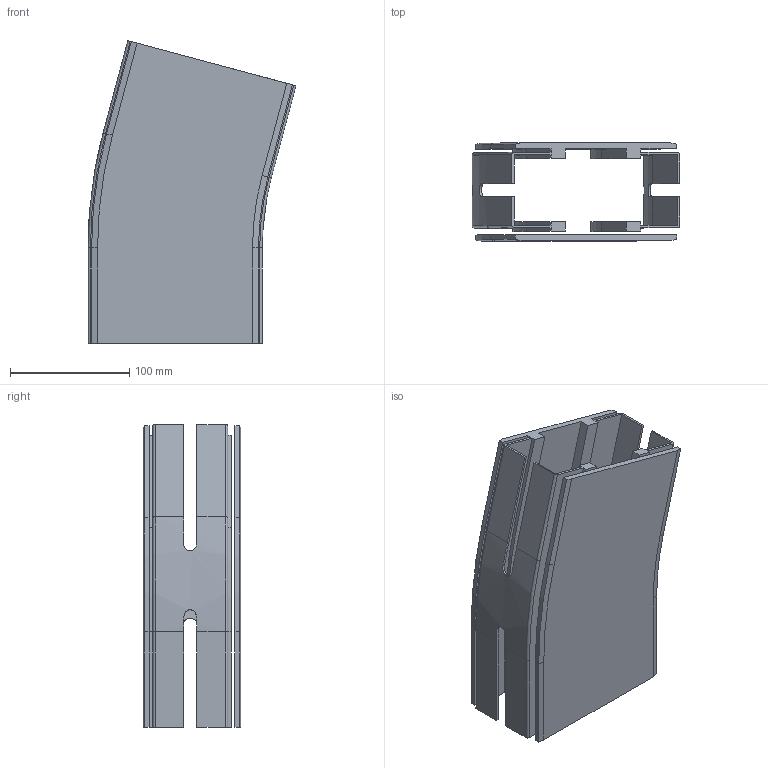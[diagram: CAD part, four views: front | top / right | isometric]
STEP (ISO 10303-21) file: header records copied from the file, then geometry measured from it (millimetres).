
FILE_DESCRIPTION(/* description */ ('GLIDKURVA SERIE 540'),/* implementation_level */ '2;1');
FILE_NAME(/* name */ '540-5375+140-2000-01.stp',/* time_stamp */ '2022-09-21T08:04:03+02:00',/* author */ ('Mathias.Dore'),/* organization */ ('CARRYLINE'),/* preprocessor_version */ 'ST-DEVELOPER v19.2',/* originating_system */ 'Autodesk Inventor 2023',/* authorisation */ '');
FILE_SCHEMA (('AUTOMOTIVE_DESIGN { 1 0 10303 214 3 1 1 }'));
Length unit declared in the file: millimetre
Products named in the file (1): 540-5375+140-2000-01
Bounding box: 174.44 x 82 x 253.81 mm (x, y, z)
Volume: 538710.7 mm3; surface area: 280654.7 mm2
Topology: 2 solids, 2 shells, 167 faces, 458 edges, 300 vertices
Faces by surface type: plane 113, cylinder 28, bspline 18, cone 4, torus 4
Entity records: 5649 total; most frequent: CARTESIAN_POINT 1356, ORIENTED_EDGE 916, DIRECTION 802, EDGE_CURVE 458, LINE 342, VECTOR 342, VERTEX_POINT 300, AXIS2_PLACEMENT_3D 230
